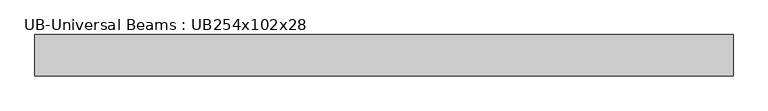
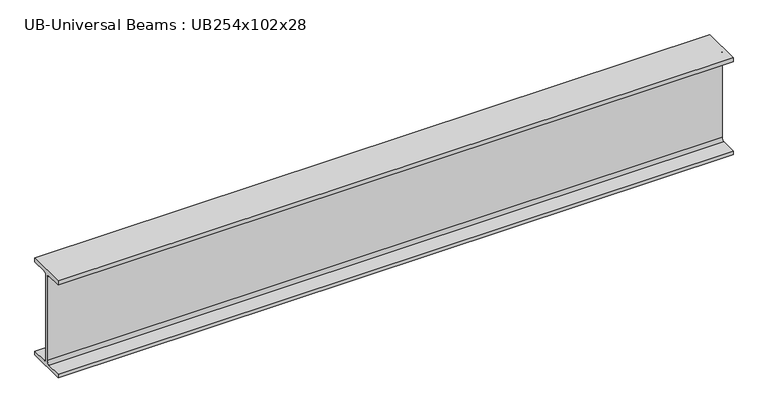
"""IFC4 building model written with IfcOpenShell, lengths in millimetres: beam geometry, UB-Universal Beams : UB254x102x28."""

from ifc_helpers import new_model, si_unit, point, frame, frame_2d, origin, place, context, project, spatial, polyline, circle_curve, trimmed, segment, composite_curve, outline, extrude, source, transform, mapped, element, save


def ub_universal_beams_ub254x102x28_4e7f3726(model_context):
    return source(origin(), model_context, "Body", "SweptSolid", [
        extrude(outline(composite_curve([segment(polyline([(51.1, -120.2), (51.1, -130.2), (-51.1, -130.2), (-51.1, -120.2), (-10.75, -120.2)]), True, "CONTINUOUS"), segment(trimmed(circle_curve(frame_2d((-10.75, -112.6)), 7.6), [point((-10.75, -120.2))], [point((-3.15, -112.6))], True, "CARTESIAN"), True, "CONTINUOUS"), segment(polyline([(-3.15, -112.6), (-3.15, 112.6)]), True, "CONTINUOUS"), segment(trimmed(circle_curve(frame_2d((-10.75, 112.6)), 7.6), [point((-3.15, 112.6))], [point((-10.75, 120.2))], True, "CARTESIAN"), True, "CONTINUOUS"), segment(polyline([(-10.75, 120.2), (-51.1, 120.2), (-51.1, 130.2), (51.1, 130.2), (51.1, 120.2), (10.75, 120.2)]), True, "CONTINUOUS"), segment(trimmed(circle_curve(frame_2d((10.75, 112.6)), 7.6), [point((10.75, 120.2))], [point((3.15, 112.6))], True, "CARTESIAN"), True, "CONTINUOUS"), segment(polyline([(3.15, 112.6), (3.15, -112.6)]), True, "CONTINUOUS"), segment(trimmed(circle_curve(frame_2d((10.75, -112.6)), 7.6), [point((3.15, -112.6))], [point((10.75, -120.2))], True, "CARTESIAN"), True, "CONTINUOUS"), segment(polyline([(10.75, -120.2), (51.1, -120.2)]), True, "CONTINUOUS")], self_intersect=False)), frame((-867.0, 0.0, 0.0), z_axis=(1.0, 0.0, 0.0), x_axis=(0.0, 1.0, 0.0)), (0.0, 0.0, 1.0), 1716.5),
    ])


if __name__ == "__main__":
    model = new_model("IFC4")
    model_context = context("Model", 3, world=origin())
    ifc_project = project(units=[si_unit("LENGTHUNIT", "METRE", prefix="MILLI")], contexts=[model_context])
    site = spatial("IfcSite", under=ifc_project)
    building = spatial("IfcBuilding", under=site)
    placement = place(None, origin())
    ub_universal_beams_ub254x102x28_shape = ub_universal_beams_ub254x102x28_4e7f3726(model_context)
    element("IfcBeam", 1, ObjectType="UB-Universal Beams : UB254x102x28", at=placement, inside=building, context=model_context, shape_type="MappedRepresentation", body=[
        mapped(ub_universal_beams_ub254x102x28_shape, transform((0.0, 0.0, 0.0), x_axis=(1.0, 0.0, 0.0), y_axis=(0.0, 1.0, 0.0), z_axis=(0.0, 0.0, 1.0))),
    ])
    save(model, "model.ifc")
